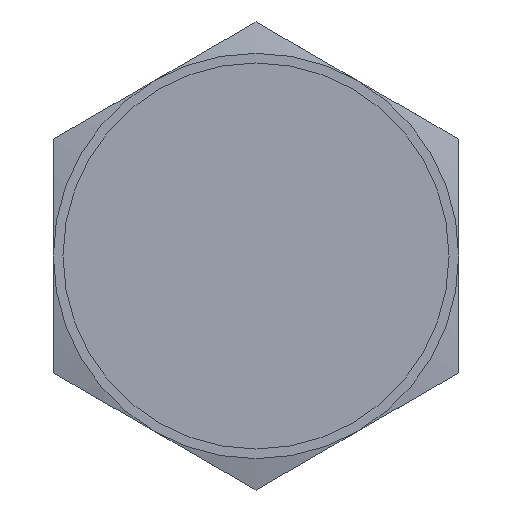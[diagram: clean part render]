
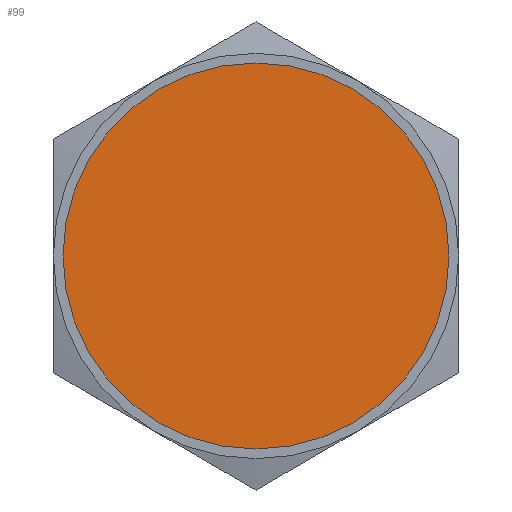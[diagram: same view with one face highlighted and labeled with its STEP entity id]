
A CAD part, front view. The second image highlights one B-rep face of the part: STEP entity #99.
In plain terms, the highlighted planar face has unit normal (0, -1, 0).
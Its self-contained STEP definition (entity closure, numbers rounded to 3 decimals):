
#99 = ADVANCED_FACE( '', ( #161 ), #162, .T. );
#161 = FACE_OUTER_BOUND( '', #240, .T. );
#162 = PLANE( '', #241 );
#240 = EDGE_LOOP( '', ( #441, #442 ) );
#241 = AXIS2_PLACEMENT_3D( '', #443, #444, #445 );
#441 = ORIENTED_EDGE( '', *, *, #557, .F. );
#442 = ORIENTED_EDGE( '', *, *, #599, .F. );
#443 = CARTESIAN_POINT( '', ( 5.239, -6.4, 0. ) );
#444 = DIRECTION( '', ( 0., -1., 0. ) );
#445 = DIRECTION( '', ( -1., 0., 0. ) );
#557 = EDGE_CURVE( '', #654, #657, #658, .T. );
#599 = EDGE_CURVE( '', #657, #654, #721, .T. );
#654 = VERTEX_POINT( '', #786 );
#657 = VERTEX_POINT( '', #790 );
#658 = CIRCLE( '', #791, 10.478 );
#721 = CIRCLE( '', #1077, 10.478 );
#786 = CARTESIAN_POINT( '', ( 10.478, -6.4, 0. ) );
#790 = CARTESIAN_POINT( '', ( -10.478, -6.4, 0. ) );
#791 = AXIS2_PLACEMENT_3D( '', #1135, #1136, #1137 );
#1077 = AXIS2_PLACEMENT_3D( '', #1175, #1176, #1177 );
#1135 = CARTESIAN_POINT( '', ( 0., -6.4, 0. ) );
#1136 = DIRECTION( '', ( 0., 1., 0. ) );
#1137 = DIRECTION( '', ( 1., 0., 0. ) );
#1175 = CARTESIAN_POINT( '', ( 0., -6.4, 0. ) );
#1176 = DIRECTION( '', ( 0., 1., 0. ) );
#1177 = DIRECTION( '', ( 1., 0., 0. ) );
